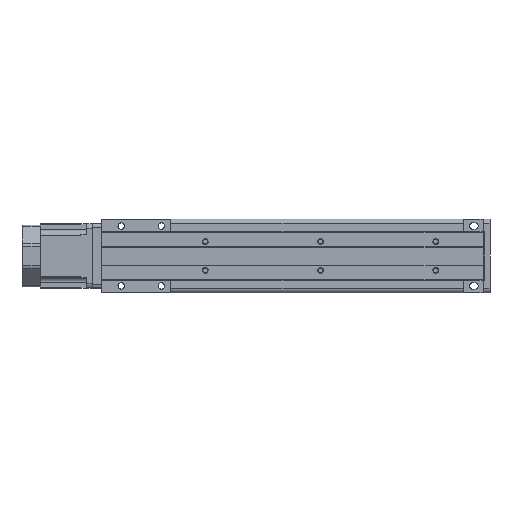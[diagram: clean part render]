
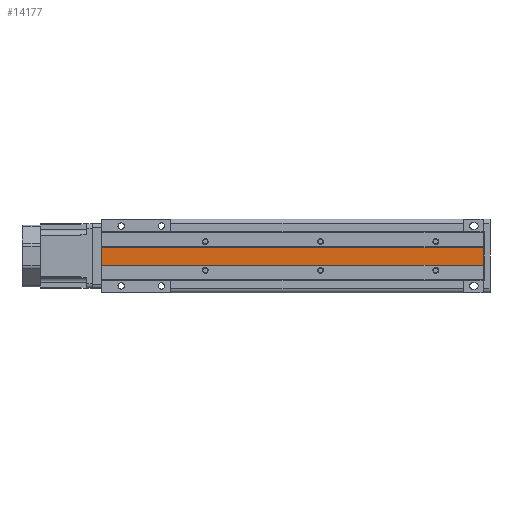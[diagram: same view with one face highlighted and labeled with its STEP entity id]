
A CAD part, front view. The second image highlights one B-rep face of the part: STEP entity #14177.
In plain terms, the highlighted planar face has unit normal (0, -1, 0).
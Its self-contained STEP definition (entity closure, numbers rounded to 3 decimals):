
#608=PLANE('',#23441);
#1982=VERTEX_POINT('',#19675);
#1983=VERTEX_POINT('',#19677);
#1984=VERTEX_POINT('',#19681);
#1985=VERTEX_POINT('',#19683);
#3213=VECTOR('',#15754,1.);
#3215=VECTOR('',#15757,1.);
#3216=VECTOR('',#15758,1.);
#3217=VECTOR('',#15759,1.);
#4723=LINE('',#19676,#3213);
#4725=LINE('',#19680,#3215);
#4726=LINE('',#19682,#3216);
#4727=LINE('',#19684,#3217);
#6398=EDGE_CURVE('',#1983,#1982,#4723,.T.);
#6400=EDGE_CURVE('',#1982,#1984,#4725,.T.);
#6401=EDGE_CURVE('',#1985,#1984,#4726,.T.);
#6402=EDGE_CURVE('',#1985,#1983,#4727,.T.);
#8601=ORIENTED_EDGE('',*,*,#6400,.T.);
#8602=ORIENTED_EDGE('',*,*,#6401,.F.);
#8603=ORIENTED_EDGE('',*,*,#6402,.T.);
#8604=ORIENTED_EDGE('',*,*,#6398,.T.);
#12364=EDGE_LOOP('',(#8601,#8602,#8603,#8604));
#13275=FACE_BOUND('',#12364,.T.);
#14177=ADVANCED_FACE('',(#13275),#608,.T.);
#15754=DIRECTION('',(1.,0.,0.));
#15756=DIRECTION('',(0.,-1.,0.));
#15757=DIRECTION('',(0.,0.,1.));
#15758=DIRECTION('',(1.,0.,0.));
#15759=DIRECTION('',(0.,0.,-1.));
#19675=CARTESIAN_POINT('',(279.,0.3,-8.));
#19676=CARTESIAN_POINT('',(-52.,0.3,-8.));
#19677=CARTESIAN_POINT('',(-52.,0.3,-8.));
#19679=CARTESIAN_POINT('',(-52.,0.3,-8.));
#19680=CARTESIAN_POINT('',(279.,0.3,7.7));
#19681=CARTESIAN_POINT('',(279.,0.3,7.7));
#19682=CARTESIAN_POINT('',(-52.,0.3,7.7));
#19683=CARTESIAN_POINT('',(-52.,0.3,7.7));
#19684=CARTESIAN_POINT('',(-52.,0.3,7.7));
#23441=AXIS2_PLACEMENT_3D('',#19679,#15756,$);
